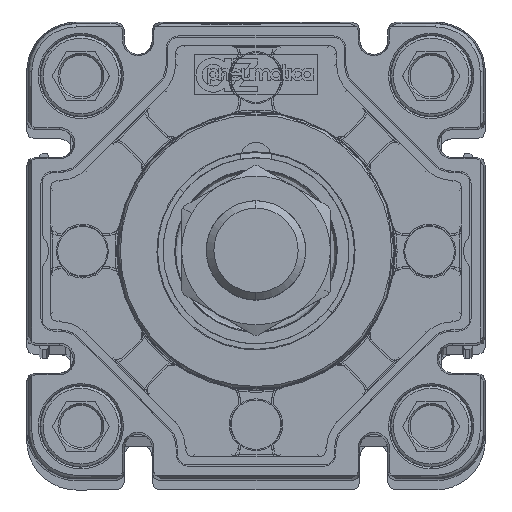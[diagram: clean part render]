
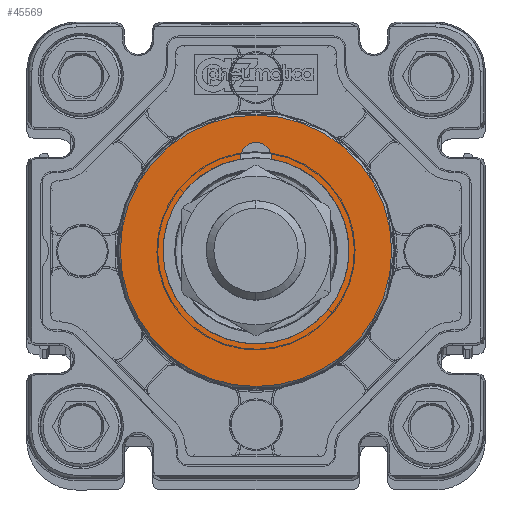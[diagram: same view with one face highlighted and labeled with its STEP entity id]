
A CAD part, top view. The second image highlights one B-rep face of the part: STEP entity #45569.
In plain terms, the highlighted planar face has unit normal (0, 0, 1) as drawn and (0, 0, -1) by its records, which use the part's own axes.
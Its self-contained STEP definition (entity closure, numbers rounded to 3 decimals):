
#266 = CARTESIAN_POINT ( 'NONE',  ( 0., 15., -57.7 ) ) ;
#412 = ORIENTED_EDGE ( 'NONE', *, *, #725, .T. ) ;
#725 = EDGE_CURVE ( 'NONE', #13520, #32245, #28214, .T. ) ;
#880 = EDGE_CURVE ( 'NONE', #4375, #27895, #24408, .T. ) ;
#1302 = CIRCLE ( 'NONE', #32099, 15. ) ;
#2014 = DIRECTION ( 'NONE',  ( 0., 0., 1. ) ) ;
#2034 = CARTESIAN_POINT ( 'NONE',  ( 0., 15., -57.7 ) ) ;
#3651 = CIRCLE ( 'NONE', #52643, 15. ) ;
#4375 = VERTEX_POINT ( 'NONE', #52640 ) ;
#5012 = CARTESIAN_POINT ( 'NONE',  ( 0., 0., -57.7 ) ) ;
#5133 = CIRCLE ( 'NONE', #13840, 15. ) ;
#5702 = CARTESIAN_POINT ( 'NONE',  ( 15., 0., -57.7 ) ) ;
#6131 = CARTESIAN_POINT ( 'NONE',  ( 0., 0., -57.7 ) ) ;
#8820 = CIRCLE ( 'NONE', #40155, 2.5 ) ;
#10037 = AXIS2_PLACEMENT_3D ( 'NONE', #266, #33121, #24676 ) ;
#10906 = EDGE_CURVE ( 'NONE', #20501, #33888, #8820, .T. ) ;
#10955 = CIRCLE ( 'NONE', #41489, 2.5 ) ;
#12678 = ORIENTED_EDGE ( 'NONE', *, *, #880, .F. ) ;
#13520 = VERTEX_POINT ( 'NONE', #36190 ) ;
#13660 = CARTESIAN_POINT ( 'NONE',  ( 0., 0., -57.7 ) ) ;
#13840 = AXIS2_PLACEMENT_3D ( 'NONE', #51059, #51580, #22603 ) ;
#14378 = DIRECTION ( 'NONE',  ( 0., 0., 1. ) ) ;
#16203 = ORIENTED_EDGE ( 'NONE', *, *, #18296, .T. ) ;
#16611 = ORIENTED_EDGE ( 'NONE', *, *, #10906, .T. ) ;
#16842 = EDGE_CURVE ( 'NONE', #33888, #21322, #5133, .T. ) ;
#16950 = DIRECTION ( 'NONE',  ( 1., 0., 0. ) ) ;
#17382 = EDGE_LOOP ( 'NONE', ( #34451, #12678 ) ) ;
#17565 = DIRECTION ( 'NONE',  ( 1., 0., 0. ) ) ;
#18059 = DIRECTION ( 'NONE',  ( -1., 0., 0. ) ) ;
#18296 = EDGE_CURVE ( 'NONE', #32245, #20501, #10955, .T. ) ;
#19687 = ORIENTED_EDGE ( 'NONE', *, *, #50495, .T. ) ;
#19942 = PLANE ( 'NONE',  #50398 ) ;
#20501 = VERTEX_POINT ( 'NONE', #33650 ) ;
#21122 = DIRECTION ( 'NONE',  ( 0., 0., 1. ) ) ;
#21154 = ORIENTED_EDGE ( 'NONE', *, *, #16842, .T. ) ;
#21298 = FACE_BOUND ( 'NONE', #25427, .T. ) ;
#21322 = VERTEX_POINT ( 'NONE', #28592 ) ;
#21745 = CARTESIAN_POINT ( 'NONE',  ( 2.5, 15., -57.7 ) ) ;
#22603 = DIRECTION ( 'NONE',  ( 1., 0., 0. ) ) ;
#24408 = CIRCLE ( 'NONE', #28560, 21.892 ) ;
#24676 = DIRECTION ( 'NONE',  ( -1., 0., 0. ) ) ;
#25427 = EDGE_LOOP ( 'NONE', ( #412, #16203, #16611, #21154, #19687, #31916 ) ) ;
#25484 = EDGE_CURVE ( 'NONE', #28251, #13520, #3651, .T. ) ;
#26522 = CIRCLE ( 'NONE', #51237, 21.892 ) ;
#27895 = VERTEX_POINT ( 'NONE', #30786 ) ;
#28214 = CIRCLE ( 'NONE', #10037, 2.5 ) ;
#28251 = VERTEX_POINT ( 'NONE', #5702 ) ;
#28560 = AXIS2_PLACEMENT_3D ( 'NONE', #50809, #50984, #18059 ) ;
#28592 = CARTESIAN_POINT ( 'NONE',  ( -15., 0., -57.7 ) ) ;
#29819 = EDGE_CURVE ( 'NONE', #27895, #4375, #26522, .T. ) ;
#30031 = CARTESIAN_POINT ( 'NONE',  ( -2.491, 14.792, -57.7 ) ) ;
#30786 = CARTESIAN_POINT ( 'NONE',  ( -21.892, 0., -57.7 ) ) ;
#31916 = ORIENTED_EDGE ( 'NONE', *, *, #25484, .T. ) ;
#32099 = AXIS2_PLACEMENT_3D ( 'NONE', #5012, #33068, #16950 ) ;
#32245 = VERTEX_POINT ( 'NONE', #21745 ) ;
#32649 = DIRECTION ( 'NONE',  ( 0., 0., -1. ) ) ;
#33068 = DIRECTION ( 'NONE',  ( 0., 0., 1. ) ) ;
#33121 = DIRECTION ( 'NONE',  ( 0., 0., 1. ) ) ;
#33650 = CARTESIAN_POINT ( 'NONE',  ( -2.5, 15., -57.7 ) ) ;
#33888 = VERTEX_POINT ( 'NONE', #30031 ) ;
#34451 = ORIENTED_EDGE ( 'NONE', *, *, #29819, .F. ) ;
#34732 = DIRECTION ( 'NONE',  ( -1., 0., 0. ) ) ;
#36190 = CARTESIAN_POINT ( 'NONE',  ( 2.491, 14.792, -57.7 ) ) ;
#36228 = DIRECTION ( 'NONE',  ( -1., 0., 0. ) ) ;
#37121 = FACE_OUTER_BOUND ( 'NONE', #17382, .T. ) ;
#38785 = DIRECTION ( 'NONE',  ( -1., 0., 0. ) ) ;
#40155 = AXIS2_PLACEMENT_3D ( 'NONE', #52567, #40714, #44341 ) ;
#40714 = DIRECTION ( 'NONE',  ( 0., 0., 1. ) ) ;
#41489 = AXIS2_PLACEMENT_3D ( 'NONE', #2034, #14378, #34732 ) ;
#44341 = DIRECTION ( 'NONE',  ( -1., 0., 0. ) ) ;
#45569 = ADVANCED_FACE ( 'NONE', ( #37121, #21298 ), #19942, .T. ) ;
#48367 = CARTESIAN_POINT ( 'NONE',  ( 0., 0., -57.7 ) ) ;
#50398 = AXIS2_PLACEMENT_3D ( 'NONE', #48367, #32649, #36228 ) ;
#50495 = EDGE_CURVE ( 'NONE', #21322, #28251, #1302, .T. ) ;
#50809 = CARTESIAN_POINT ( 'NONE',  ( 0., 0., -57.7 ) ) ;
#50984 = DIRECTION ( 'NONE',  ( 0., 0., 1. ) ) ;
#51059 = CARTESIAN_POINT ( 'NONE',  ( 0., 0., -57.7 ) ) ;
#51237 = AXIS2_PLACEMENT_3D ( 'NONE', #6131, #2014, #38785 ) ;
#51580 = DIRECTION ( 'NONE',  ( 0., 0., 1. ) ) ;
#52567 = CARTESIAN_POINT ( 'NONE',  ( 0., 15., -57.7 ) ) ;
#52640 = CARTESIAN_POINT ( 'NONE',  ( 21.892, 0., -57.7 ) ) ;
#52643 = AXIS2_PLACEMENT_3D ( 'NONE', #13660, #21122, #17565 ) ;
